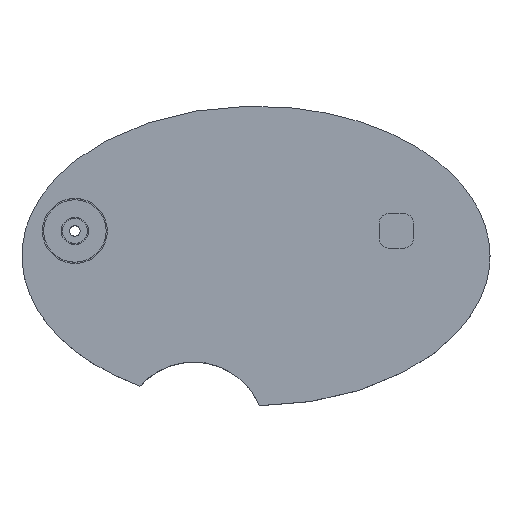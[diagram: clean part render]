
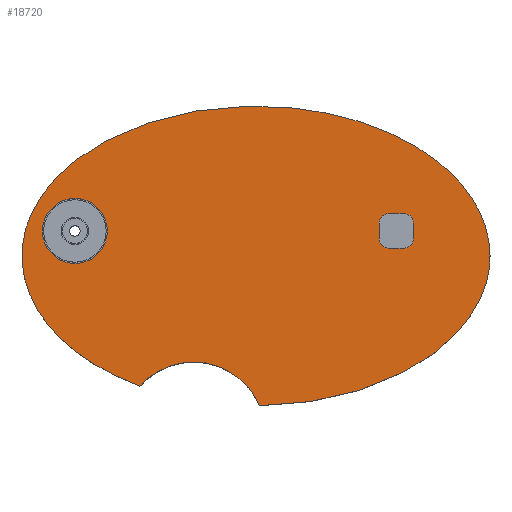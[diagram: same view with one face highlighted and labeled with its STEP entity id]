
A CAD part, top view. The second image highlights one B-rep face of the part: STEP entity #18720.
In plain terms, the highlighted planar face has unit normal (0, 0, 1).
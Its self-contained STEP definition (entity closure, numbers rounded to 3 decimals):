
#18493 = EDGE_CURVE('',#18494,#18496,#18498,.T.);
#18494 = VERTEX_POINT('',#18495);
#18495 = CARTESIAN_POINT('',(75.,0.,3.2));
#18496 = VERTEX_POINT('',#18497);
#18497 = CARTESIAN_POINT('',(-37.166,-41.692,3.2));
#18498 = SURFACE_CURVE('',#18499,(#18504,#18555),.PCURVE_S1.);
#18499 = ELLIPSE('',#18500,75.,48.);
#18500 = AXIS2_PLACEMENT_3D('',#18501,#18502,#18503);
#18501 = CARTESIAN_POINT('',(0.,0.,3.2));
#18502 = DIRECTION('',(0.,0.,1.));
#18503 = DIRECTION('',(1.,0.,-0.));
#18504 = PCURVE('',#18505,#18550);
#18505 = B_SPLINE_SURFACE_WITH_KNOTS('',11,1,(
    (#18506,#18507)
    ,(#18508,#18509)
    ,(#18510,#18511)
    ,(#18512,#18513)
    ,(#18514,#18515)
    ,(#18516,#18517)
    ,(#18518,#18519)
    ,(#18520,#18521)
    ,(#18522,#18523)
    ,(#18524,#18525)
    ,(#18526,#18527)
    ,(#18528,#18529)
    ,(#18530,#18531)
    ,(#18532,#18533)
    ,(#18534,#18535)
    ,(#18536,#18537)
    ,(#18538,#18539)
    ,(#18540,#18541)
    ,(#18542,#18543)
    ,(#18544,#18545)
    ,(#18546,#18547)
    ,(#18548,#18549
    )),.UNSPECIFIED.,.T.,.F.,.F.,(1,11,10,11,1),(2,2),(-3.142,0.
    ,3.142,6.283,9.425),(0.,1.),.UNSPECIFIED.);
#18506 = CARTESIAN_POINT('',(72.5,0.,0.));
#18507 = CARTESIAN_POINT('',(75.,0.,3.2));
#18508 = CARTESIAN_POINT('',(72.5,12.995,0.));
#18509 = CARTESIAN_POINT('',(75.,13.709,3.2));
#18510 = CARTESIAN_POINT('',(65.995,25.99,0.));
#18511 = CARTESIAN_POINT('',(68.271,27.418,3.2));
#18512 = CARTESIAN_POINT('',(52.985,37.559,0.));
#18513 = CARTESIAN_POINT('',(54.812,39.623,
    3.2));
#18514 = CARTESIAN_POINT('',(34.362,46.279,0.));
#18515 = CARTESIAN_POINT('',(35.547,48.822,
    3.2));
#18516 = CARTESIAN_POINT('',(11.909,50.975,0.));
#18517 = CARTESIAN_POINT('',(12.319,53.776,
    3.2));
#18518 = CARTESIAN_POINT('',(-11.909,50.975,0.));
#18519 = CARTESIAN_POINT('',(-12.319,53.776,3.2));
#18520 = CARTESIAN_POINT('',(-34.362,46.279,0.));
#18521 = CARTESIAN_POINT('',(-35.547,48.822,3.2));
#18522 = CARTESIAN_POINT('',(-52.985,37.559,0.));
#18523 = CARTESIAN_POINT('',(-54.812,39.623,3.2));
#18524 = CARTESIAN_POINT('',(-65.995,25.99,0.));
#18525 = CARTESIAN_POINT('',(-68.271,27.418,3.2));
#18526 = CARTESIAN_POINT('',(-72.5,12.995,0.));
#18527 = CARTESIAN_POINT('',(-75.,13.709,3.2));
#18528 = CARTESIAN_POINT('',(-72.5,-12.995,0.));
#18529 = CARTESIAN_POINT('',(-75.,-13.709,3.2));
#18530 = CARTESIAN_POINT('',(-65.995,-25.99,0.));
#18531 = CARTESIAN_POINT('',(-68.271,-27.418,3.2));
#18532 = CARTESIAN_POINT('',(-52.985,-37.559,0.));
#18533 = CARTESIAN_POINT('',(-54.812,-39.623,
    3.2));
#18534 = CARTESIAN_POINT('',(-34.362,-46.279,0.));
#18535 = CARTESIAN_POINT('',(-35.547,-48.822,
    3.2));
#18536 = CARTESIAN_POINT('',(-11.909,-50.975,0.));
#18537 = CARTESIAN_POINT('',(-12.319,-53.776,
    3.2));
#18538 = CARTESIAN_POINT('',(11.909,-50.975,0.));
#18539 = CARTESIAN_POINT('',(12.319,-53.776,
    3.2));
#18540 = CARTESIAN_POINT('',(34.362,-46.279,0.));
#18541 = CARTESIAN_POINT('',(35.547,-48.822,
    3.2));
#18542 = CARTESIAN_POINT('',(52.985,-37.559,0.));
#18543 = CARTESIAN_POINT('',(54.812,-39.623,3.2));
#18544 = CARTESIAN_POINT('',(65.995,-25.99,0.));
#18545 = CARTESIAN_POINT('',(68.271,-27.418,3.2));
#18546 = CARTESIAN_POINT('',(72.5,-12.995,0.));
#18547 = CARTESIAN_POINT('',(75.,-13.709,3.2));
#18548 = CARTESIAN_POINT('',(72.5,0.,0.));
#18549 = CARTESIAN_POINT('',(75.,0.,3.2));
#18550 = DEFINITIONAL_REPRESENTATION('',(#18551),#18554);
#18551 = B_SPLINE_CURVE_WITH_KNOTS('',1,(#18552,#18553),.UNSPECIFIED.,
  .F.,.F.,(2,2),(0.,4.194),.PIECEWISE_BEZIER_KNOTS.);
#18552 = CARTESIAN_POINT('',(0.,1.));
#18553 = CARTESIAN_POINT('',(4.194,1.));
#18554 = ( GEOMETRIC_REPRESENTATION_CONTEXT(2) 
PARAMETRIC_REPRESENTATION_CONTEXT() REPRESENTATION_CONTEXT('2D SPACE',''
  ) );
#18555 = PCURVE('',#18556,#18561);
#18556 = PLANE('',#18557);
#18557 = AXIS2_PLACEMENT_3D('',#18558,#18559,#18560);
#18558 = CARTESIAN_POINT('',(0.,0.,3.2));
#18559 = DIRECTION('',(0.,0.,1.));
#18560 = DIRECTION('',(1.,0.,-0.));
#18561 = DEFINITIONAL_REPRESENTATION('',(#18562),#18566);
#18562 = ELLIPSE('',#18563,75.,48.);
#18563 = AXIS2_PLACEMENT_2D('',#18564,#18565);
#18564 = CARTESIAN_POINT('',(0.,0.));
#18565 = DIRECTION('',(1.,0.));
#18566 = ( GEOMETRIC_REPRESENTATION_CONTEXT(2) 
PARAMETRIC_REPRESENTATION_CONTEXT() REPRESENTATION_CONTEXT('2D SPACE',''
  ) );
#18568 = EDGE_CURVE('',#18569,#18494,#18571,.T.);
#18569 = VERTEX_POINT('',#18570);
#18570 = CARTESIAN_POINT('',(1.164,-47.994,3.2));
#18571 = SURFACE_CURVE('',#18572,(#18577,#18583),.PCURVE_S1.);
#18572 = ELLIPSE('',#18573,75.,48.);
#18573 = AXIS2_PLACEMENT_3D('',#18574,#18575,#18576);
#18574 = CARTESIAN_POINT('',(0.,0.,3.2));
#18575 = DIRECTION('',(0.,0.,1.));
#18576 = DIRECTION('',(1.,0.,-0.));
#18577 = PCURVE('',#18505,#18578);
#18578 = DEFINITIONAL_REPRESENTATION('',(#18579),#18582);
#18579 = B_SPLINE_CURVE_WITH_KNOTS('',1,(#18580,#18581),.UNSPECIFIED.,
  .F.,.F.,(2,2),(4.728,6.283),
  .PIECEWISE_BEZIER_KNOTS.);
#18580 = CARTESIAN_POINT('',(-1.555,1.));
#18581 = CARTESIAN_POINT('',(0.,1.));
#18582 = ( GEOMETRIC_REPRESENTATION_CONTEXT(2) 
PARAMETRIC_REPRESENTATION_CONTEXT() REPRESENTATION_CONTEXT('2D SPACE',''
  ) );
#18583 = PCURVE('',#18556,#18584);
#18584 = DEFINITIONAL_REPRESENTATION('',(#18585),#18589);
#18585 = ELLIPSE('',#18586,75.,48.);
#18586 = AXIS2_PLACEMENT_2D('',#18587,#18588);
#18587 = CARTESIAN_POINT('',(0.,0.));
#18588 = DIRECTION('',(1.,0.));
#18589 = ( GEOMETRIC_REPRESENTATION_CONTEXT(2) 
PARAMETRIC_REPRESENTATION_CONTEXT() REPRESENTATION_CONTEXT('2D SPACE',''
  ) );
#18617 = CYLINDRICAL_SURFACE('',#18618,23.);
#18618 = AXIS2_PLACEMENT_3D('',#18619,#18620,#18621);
#18619 = CARTESIAN_POINT('',(-20.,-57.,-1.));
#18620 = DIRECTION('',(0.,0.,1.));
#18621 = DIRECTION('',(1.,0.,-0.));
#18720 = ADVANCED_FACE('',(#18721,#18747,#18778),#18556,.T.);
#18721 = FACE_BOUND('',#18722,.T.);
#18722 = EDGE_LOOP('',(#18723,#18724,#18725));
#18723 = ORIENTED_EDGE('',*,*,#18568,.T.);
#18724 = ORIENTED_EDGE('',*,*,#18493,.T.);
#18725 = ORIENTED_EDGE('',*,*,#18726,.F.);
#18726 = EDGE_CURVE('',#18569,#18496,#18727,.T.);
#18727 = SURFACE_CURVE('',#18728,(#18733,#18740),.PCURVE_S1.);
#18728 = CIRCLE('',#18729,23.);
#18729 = AXIS2_PLACEMENT_3D('',#18730,#18731,#18732);
#18730 = CARTESIAN_POINT('',(-20.,-57.,3.2));
#18731 = DIRECTION('',(0.,0.,1.));
#18732 = DIRECTION('',(1.,0.,-0.));
#18733 = PCURVE('',#18556,#18734);
#18734 = DEFINITIONAL_REPRESENTATION('',(#18735),#18739);
#18735 = CIRCLE('',#18736,23.);
#18736 = AXIS2_PLACEMENT_2D('',#18737,#18738);
#18737 = CARTESIAN_POINT('',(-20.,-57.));
#18738 = DIRECTION('',(1.,0.));
#18739 = ( GEOMETRIC_REPRESENTATION_CONTEXT(2) 
PARAMETRIC_REPRESENTATION_CONTEXT() REPRESENTATION_CONTEXT('2D SPACE',''
  ) );
#18740 = PCURVE('',#18617,#18741);
#18741 = DEFINITIONAL_REPRESENTATION('',(#18742),#18746);
#18742 = LINE('',#18743,#18744);
#18743 = CARTESIAN_POINT('',(0.,4.2));
#18744 = VECTOR('',#18745,1.);
#18745 = DIRECTION('',(1.,0.));
#18746 = ( GEOMETRIC_REPRESENTATION_CONTEXT(2) 
PARAMETRIC_REPRESENTATION_CONTEXT() REPRESENTATION_CONTEXT('2D SPACE',''
  ) );
#18747 = FACE_BOUND('',#18748,.T.);
#18748 = EDGE_LOOP('',(#18749));
#18749 = ORIENTED_EDGE('',*,*,#18750,.F.);
#18750 = EDGE_CURVE('',#18751,#18751,#18753,.T.);
#18751 = VERTEX_POINT('',#18752);
#18752 = CARTESIAN_POINT('',(-47.6,8.,3.2));
#18753 = SURFACE_CURVE('',#18754,(#18759,#18766),.PCURVE_S1.);
#18754 = CIRCLE('',#18755,10.4);
#18755 = AXIS2_PLACEMENT_3D('',#18756,#18757,#18758);
#18756 = CARTESIAN_POINT('',(-58.,8.,3.2));
#18757 = DIRECTION('',(0.,0.,1.));
#18758 = DIRECTION('',(1.,0.,-0.));
#18759 = PCURVE('',#18556,#18760);
#18760 = DEFINITIONAL_REPRESENTATION('',(#18761),#18765);
#18761 = CIRCLE('',#18762,10.4);
#18762 = AXIS2_PLACEMENT_2D('',#18763,#18764);
#18763 = CARTESIAN_POINT('',(-58.,8.));
#18764 = DIRECTION('',(1.,0.));
#18765 = ( GEOMETRIC_REPRESENTATION_CONTEXT(2) 
PARAMETRIC_REPRESENTATION_CONTEXT() REPRESENTATION_CONTEXT('2D SPACE',''
  ) );
#18766 = PCURVE('',#18767,#18772);
#18767 = CYLINDRICAL_SURFACE('',#18768,10.4);
#18768 = AXIS2_PLACEMENT_3D('',#18769,#18770,#18771);
#18769 = CARTESIAN_POINT('',(-58.,8.,-1.));
#18770 = DIRECTION('',(0.,0.,1.));
#18771 = DIRECTION('',(1.,0.,-0.));
#18772 = DEFINITIONAL_REPRESENTATION('',(#18773),#18777);
#18773 = LINE('',#18774,#18775);
#18774 = CARTESIAN_POINT('',(0.,4.2));
#18775 = VECTOR('',#18776,1.);
#18776 = DIRECTION('',(1.,0.));
#18777 = ( GEOMETRIC_REPRESENTATION_CONTEXT(2) 
PARAMETRIC_REPRESENTATION_CONTEXT() REPRESENTATION_CONTEXT('2D SPACE',''
  ) );
#18778 = FACE_BOUND('',#18779,.T.);
#18779 = EDGE_LOOP('',(#18780));
#18780 = ORIENTED_EDGE('',*,*,#18781,.F.);
#18781 = EDGE_CURVE('',#18782,#18782,#18784,.T.);
#18782 = VERTEX_POINT('',#18783);
#18783 = CARTESIAN_POINT('',(47.8,8.,3.2));
#18784 = SURFACE_CURVE('',#18785,(#18790,#18797),.PCURVE_S1.);
#18785 = CIRCLE('',#18786,2.8);
#18786 = AXIS2_PLACEMENT_3D('',#18787,#18788,#18789);
#18787 = CARTESIAN_POINT('',(45.,8.,3.2));
#18788 = DIRECTION('',(0.,0.,1.));
#18789 = DIRECTION('',(1.,0.,-0.));
#18790 = PCURVE('',#18556,#18791);
#18791 = DEFINITIONAL_REPRESENTATION('',(#18792),#18796);
#18792 = CIRCLE('',#18793,2.8);
#18793 = AXIS2_PLACEMENT_2D('',#18794,#18795);
#18794 = CARTESIAN_POINT('',(45.,8.));
#18795 = DIRECTION('',(1.,0.));
#18796 = ( GEOMETRIC_REPRESENTATION_CONTEXT(2) 
PARAMETRIC_REPRESENTATION_CONTEXT() REPRESENTATION_CONTEXT('2D SPACE',''
  ) );
#18797 = PCURVE('',#18798,#18803);
#18798 = CYLINDRICAL_SURFACE('',#18799,2.8);
#18799 = AXIS2_PLACEMENT_3D('',#18800,#18801,#18802);
#18800 = CARTESIAN_POINT('',(45.,8.,-1.));
#18801 = DIRECTION('',(0.,0.,1.));
#18802 = DIRECTION('',(1.,0.,-0.));
#18803 = DEFINITIONAL_REPRESENTATION('',(#18804),#18808);
#18804 = LINE('',#18805,#18806);
#18805 = CARTESIAN_POINT('',(0.,4.2));
#18806 = VECTOR('',#18807,1.);
#18807 = DIRECTION('',(1.,0.));
#18808 = ( GEOMETRIC_REPRESENTATION_CONTEXT(2) 
PARAMETRIC_REPRESENTATION_CONTEXT() REPRESENTATION_CONTEXT('2D SPACE',''
  ) );
